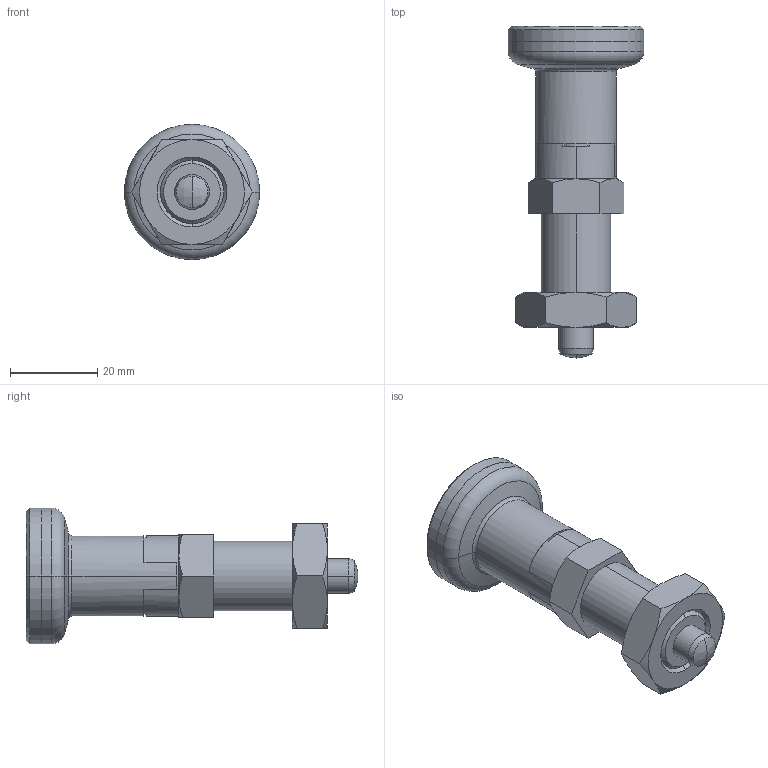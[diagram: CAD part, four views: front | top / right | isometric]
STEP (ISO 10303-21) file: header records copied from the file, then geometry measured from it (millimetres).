
FILE_DESCRIPTION (( 'STEP AP214' ), '1' );
FILE_NAME ('617.1-8-AKN-NI.step', '2022-08-30T05:29:37', ( '' ), ( '' ), 'SwSTEP 2.0', 'SolidWorks 2022', '' );
FILE_SCHEMA (( 'AUTOMOTIVE_DESIGN' ));
Length unit declared in the file: millimetre
Products named in the file (4): WB617_Bolzen^WB617.1_8-CS-NI; WB617_Führung^WB617.1_8-C-NI; WB617_Mutter^WB617.1_M16-NI; 617.1-8-AKN-NI
Assembly tree (3 placements, depth 2):
  617.1-8-AKN-NI
    WB617_Führung^WB617.1_8-C-NI
    WB617_Bolzen^WB617.1_8-CS-NI
    WB617_Mutter^WB617.1_M16-NI
Bounding box: 31 x 76 x 31 mm (x, y, z)
Volume: 23465.9 mm3; surface area: 10176.3 mm2
Topology: 3 solids, 3 shells, 109 faces, 254 edges, 158 vertices
Faces by surface type: plane 47, cone 30, cylinder 24, torus 4, sphere 4
Entity records: 4308 total; most frequent: CARTESIAN_POINT 735, DIRECTION 560, ORIENTED_EDGE 508, EDGE_CURVE 254, AXIS2_PLACEMENT_3D 227, VERTEX_POINT 158, EDGE_LOOP 120, CIRCLE 112
